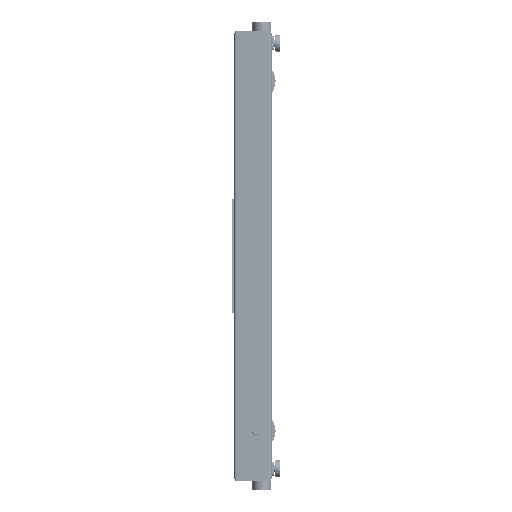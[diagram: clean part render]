
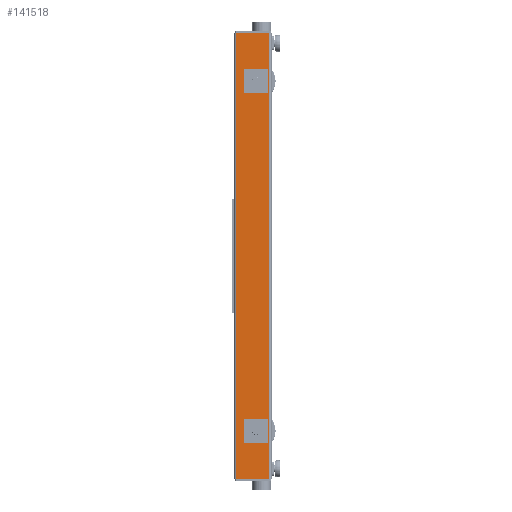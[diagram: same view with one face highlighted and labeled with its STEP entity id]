
A CAD part, left-side view. The second image highlights one B-rep face of the part: STEP entity #141518.
In plain terms, the highlighted planar face has unit normal (-1, 0, 0).
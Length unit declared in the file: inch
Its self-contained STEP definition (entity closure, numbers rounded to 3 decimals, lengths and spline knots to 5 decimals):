
#1593 = ORIENTED_EDGE ( 'NONE', *, *, #92176, .T. ) ;
#1780 = ORIENTED_EDGE ( 'NONE', *, *, #100713, .T. ) ;
#7873 = VECTOR ( 'NONE', #21555, 39.37008 ) ;
#9208 = VERTEX_POINT ( 'NONE', #56861 ) ;
#10252 = DIRECTION ( 'NONE',  ( 0., -1., 0. ) ) ;
#11994 = EDGE_CURVE ( 'NONE', #33703, #168499, #69109, .T. ) ;
#13102 = VERTEX_POINT ( 'NONE', #27033 ) ;
#17657 = VECTOR ( 'NONE', #154577, 39.37008 ) ;
#21555 = DIRECTION ( 'NONE',  ( 0., -1., 0. ) ) ;
#23018 = AXIS2_PLACEMENT_3D ( 'NONE', #175617, #50569, #93860 ) ;
#23479 = DIRECTION ( 'NONE',  ( 1., 0., 0. ) ) ;
#23987 = EDGE_LOOP ( 'NONE', ( #160549, #171885 ) ) ;
#26176 = FACE_OUTER_BOUND ( 'NONE', #156679, .T. ) ;
#27033 = CARTESIAN_POINT ( 'NONE',  ( 0., 3.335, -36.11375 ) ) ;
#30200 = CARTESIAN_POINT ( 'NONE',  ( 0., 3.335, -37.88575 ) ) ;
#33703 = VERTEX_POINT ( 'NONE', #78368 ) ;
#34877 = DIRECTION ( 'NONE',  ( 0., 1., 0. ) ) ;
#39544 = CIRCLE ( 'NONE', #180575, 0.886 ) ;
#40858 = CARTESIAN_POINT ( 'NONE',  ( 0., 7.5, 47.21875 ) ) ;
#41055 = CARTESIAN_POINT ( 'NONE',  ( 0., 0.5, 47.21875 ) ) ;
#41640 = CARTESIAN_POINT ( 'NONE',  ( 0., 7.5, -47.21875 ) ) ;
#42228 = CARTESIAN_POINT ( 'NONE',  ( 0., 0.5, 47.21875 ) ) ;
#43950 = EDGE_CURVE ( 'NONE', #13102, #176168, #65272, .T. ) ;
#46725 = VERTEX_POINT ( 'NONE', #41055 ) ;
#50569 = DIRECTION ( 'NONE',  ( 1., 0., 0. ) ) ;
#55184 = CIRCLE ( 'NONE', #184242, 0.886 ) ;
#56861 = CARTESIAN_POINT ( 'NONE',  ( 0., 3.335, 37.88625 ) ) ;
#60269 = LINE ( 'NONE', #146674, #145980 ) ;
#60935 = DIRECTION ( 'NONE',  ( 1., 0., 0. ) ) ;
#65272 = CIRCLE ( 'NONE', #23018, 0.886 ) ;
#67666 = CARTESIAN_POINT ( 'NONE',  ( 0., 0.5, -47.21875 ) ) ;
#69109 = LINE ( 'NONE', #40858, #17657 ) ;
#70475 = FACE_BOUND ( 'NONE', #111977, .T. ) ;
#78368 = CARTESIAN_POINT ( 'NONE',  ( 0., 7.5, 47.21875 ) ) ;
#82708 = LINE ( 'NONE', #67666, #7873 ) ;
#85218 = CARTESIAN_POINT ( 'NONE',  ( 0., 3.335, 37.00025 ) ) ;
#91985 = EDGE_CURVE ( 'NONE', #46725, #137384, #60269, .T. ) ;
#92176 = EDGE_CURVE ( 'NONE', #168499, #137384, #82708, .T. ) ;
#93860 = DIRECTION ( 'NONE',  ( 0., 1., 0. ) ) ;
#95079 = CIRCLE ( 'NONE', #110237, 0.886 ) ;
#97107 = AXIS2_PLACEMENT_3D ( 'NONE', #42228, #99643, #174496 ) ;
#97512 = DIRECTION ( 'NONE',  ( 0., 1., 0. ) ) ;
#99643 = DIRECTION ( 'NONE',  ( 1., 0., 0. ) ) ;
#100713 = EDGE_CURVE ( 'NONE', #183786, #9208, #39544, .T. ) ;
#109077 = ORIENTED_EDGE ( 'NONE', *, *, #91985, .F. ) ;
#110060 = CARTESIAN_POINT ( 'NONE',  ( 0., 0.5, 47.21875 ) ) ;
#110237 = AXIS2_PLACEMENT_3D ( 'NONE', #135505, #23479, #34877 ) ;
#111800 = EDGE_CURVE ( 'NONE', #9208, #183786, #55184, .T. ) ;
#111977 = EDGE_LOOP ( 'NONE', ( #1780, #136486 ) ) ;
#115702 = EDGE_CURVE ( 'NONE', #33703, #46725, #125047, .T. ) ;
#117369 = CARTESIAN_POINT ( 'NONE',  ( 0., 3.335, 37.00025 ) ) ;
#120926 = ORIENTED_EDGE ( 'NONE', *, *, #115702, .F. ) ;
#125047 = LINE ( 'NONE', #110060, #163747 ) ;
#129582 = DIRECTION ( 'NONE',  ( 0., 1., 0. ) ) ;
#133564 = DIRECTION ( 'NONE',  ( 0., 0., -1. ) ) ;
#135505 = CARTESIAN_POINT ( 'NONE',  ( 0., 3.335, -36.99975 ) ) ;
#136486 = ORIENTED_EDGE ( 'NONE', *, *, #111800, .T. ) ;
#137384 = VERTEX_POINT ( 'NONE', #142015 ) ;
#141518 = ADVANCED_FACE ( 'NONE', ( #70475, #154101, #26176 ), #171010, .F. ) ;
#142015 = CARTESIAN_POINT ( 'NONE',  ( 0., 0.5, -47.21875 ) ) ;
#145980 = VECTOR ( 'NONE', #133564, 39.37008 ) ;
#146674 = CARTESIAN_POINT ( 'NONE',  ( 0., 0.5, 47.21875 ) ) ;
#148970 = CARTESIAN_POINT ( 'NONE',  ( 0., 3.335, 36.11425 ) ) ;
#154101 = FACE_BOUND ( 'NONE', #23987, .T. ) ;
#154577 = DIRECTION ( 'NONE',  ( 0., 0., -1. ) ) ;
#156679 = EDGE_LOOP ( 'NONE', ( #1593, #109077, #120926, #172265 ) ) ;
#160549 = ORIENTED_EDGE ( 'NONE', *, *, #176306, .T. ) ;
#163747 = VECTOR ( 'NONE', #10252, 39.37008 ) ;
#167951 = DIRECTION ( 'NONE',  ( 1., 0., 0. ) ) ;
#168499 = VERTEX_POINT ( 'NONE', #41640 ) ;
#171010 = PLANE ( 'NONE',  #97107 ) ;
#171885 = ORIENTED_EDGE ( 'NONE', *, *, #43950, .T. ) ;
#172265 = ORIENTED_EDGE ( 'NONE', *, *, #11994, .T. ) ;
#174496 = DIRECTION ( 'NONE',  ( 0., 1., 0. ) ) ;
#175617 = CARTESIAN_POINT ( 'NONE',  ( 0., 3.335, -36.99975 ) ) ;
#176168 = VERTEX_POINT ( 'NONE', #30200 ) ;
#176306 = EDGE_CURVE ( 'NONE', #176168, #13102, #95079, .T. ) ;
#180575 = AXIS2_PLACEMENT_3D ( 'NONE', #85218, #167951, #97512 ) ;
#183786 = VERTEX_POINT ( 'NONE', #148970 ) ;
#184242 = AXIS2_PLACEMENT_3D ( 'NONE', #117369, #60935, #129582 ) ;
